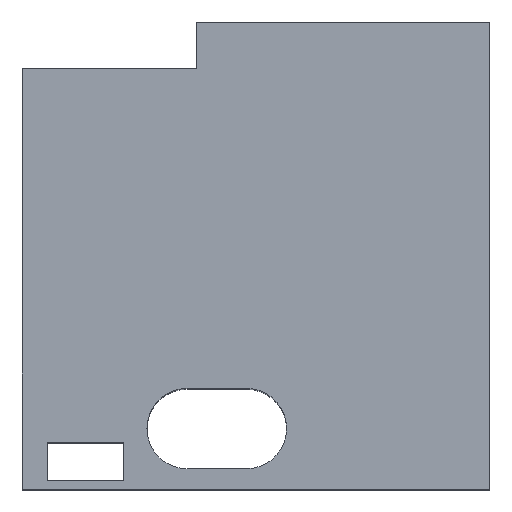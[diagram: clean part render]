
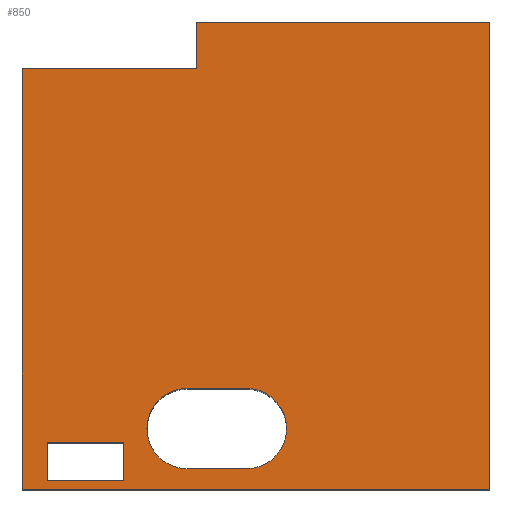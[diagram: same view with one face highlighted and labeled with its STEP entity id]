
A CAD part, top view. The second image highlights one B-rep face of the part: STEP entity #850.
In plain terms, the highlighted planar face has unit normal (0, 0, 1).
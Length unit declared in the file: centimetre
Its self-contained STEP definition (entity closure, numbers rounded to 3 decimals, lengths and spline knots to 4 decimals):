
#1 = DIRECTION ( 'NONE',  ( 1., 0., 0. ) ) ;
#4 = CARTESIAN_POINT ( 'NONE',  ( 372.6531, 1000., 1000. ) ) ;
#8 = FACE_BOUND ( 'NONE', #996, .T. ) ;
#12 = CARTESIAN_POINT ( 'NONE',  ( 372.6531, 1000., 1000. ) ) ;
#15 = CARTESIAN_POINT ( 'NONE',  ( 0., 0., 1000. ) ) ;
#16 = EDGE_CURVE ( 'NONE', #572, #487, #654, .T. ) ;
#30 = VERTEX_POINT ( 'NONE', #291 ) ;
#34 = ORIENTED_EDGE ( 'NONE', *, *, #575, .F. ) ;
#35 = FACE_OUTER_BOUND ( 'NONE', #432, .T. ) ;
#71 = EDGE_CURVE ( 'NONE', #226, #884, #724, .T. ) ;
#76 = VERTEX_POINT ( 'NONE', #396 ) ;
#78 = LINE ( 'NONE', #391, #474 ) ;
#79 = VERTEX_POINT ( 'NONE', #717 ) ;
#88 = EDGE_CURVE ( 'NONE', #675, #79, #1135, .T. ) ;
#91 = DIRECTION ( 'NONE',  ( 0., 0., -1. ) ) ;
#92 = CARTESIAN_POINT ( 'NONE',  ( 479.4095, 215.7386, 1000. ) ) ;
#99 = CARTESIAN_POINT ( 'NONE',  ( 479.4095, 43.6191, 1000. ) ) ;
#105 = EDGE_CURVE ( 'NONE', #228, #675, #402, .T. ) ;
#109 = EDGE_LOOP ( 'NONE', ( #556, #1307, #1216, #666, #984 ) ) ;
#115 = DIRECTION ( 'NONE',  ( -1., 0., 0. ) ) ;
#129 = EDGE_CURVE ( 'NONE', #1332, #228, #78, .T. ) ;
#134 = ORIENTED_EDGE ( 'NONE', *, *, #105, .F. ) ;
#135 = VECTOR ( 'NONE', #115, 100. ) ;
#160 = CARTESIAN_POINT ( 'NONE',  ( 1000., 1000., 1000. ) ) ;
#185 = AXIS2_PLACEMENT_3D ( 'NONE', #197, #940, #1 ) ;
#193 = LINE ( 'NONE', #1341, #945 ) ;
#197 = CARTESIAN_POINT ( 'NONE',  ( 352.5603, 129.6789, 1000. ) ) ;
#215 = ORIENTED_EDGE ( 'NONE', *, *, #1229, .T. ) ;
#220 = ORIENTED_EDGE ( 'NONE', *, *, #773, .T. ) ;
#226 = VERTEX_POINT ( 'NONE', #602 ) ;
#227 = LINE ( 'NONE', #1265, #135 ) ;
#228 = VERTEX_POINT ( 'NONE', #1018 ) ;
#230 = CARTESIAN_POINT ( 'NONE',  ( 352.5603, 43.6191, 1000. ) ) ;
#247 = CARTESIAN_POINT ( 'NONE',  ( 352.5603, 43.6191, 1000. ) ) ;
#254 = ORIENTED_EDGE ( 'NONE', *, *, #88, .F. ) ;
#256 = CARTESIAN_POINT ( 'NONE',  ( 479.4095, 129.6789, 1000. ) ) ;
#269 = VECTOR ( 'NONE', #289, 100. ) ;
#275 = DIRECTION ( 'NONE',  ( 0., 0., -1. ) ) ;
#279 = VECTOR ( 'NONE', #765, 100. ) ;
#289 = DIRECTION ( 'NONE',  ( 0., 1., 0. ) ) ;
#291 = CARTESIAN_POINT ( 'NONE',  ( 1000., 0., 1000. ) ) ;
#314 = DIRECTION ( 'NONE',  ( 0., -1., 0. ) ) ;
#361 = CARTESIAN_POINT ( 'NONE',  ( 53.0091, 18.2263, 1000. ) ) ;
#377 = CARTESIAN_POINT ( 'NONE',  ( 53.0091, 18.2263, 1000. ) ) ;
#391 = CARTESIAN_POINT ( 'NONE',  ( 53.0091, 18.2263, 1000. ) ) ;
#396 = CARTESIAN_POINT ( 'NONE',  ( 479.4095, 215.7386, 1000. ) ) ;
#402 = LINE ( 'NONE', #823, #1070 ) ;
#411 = AXIS2_PLACEMENT_3D ( 'NONE', #256, #275, #593 ) ;
#416 = DIRECTION ( 'NONE',  ( 1., 0., 0. ) ) ;
#424 = CARTESIAN_POINT ( 'NONE',  ( 0., 0., 1000. ) ) ;
#432 = EDGE_LOOP ( 'NONE', ( #1159, #220, #215, #1286, #434, #1196 ) ) ;
#434 = ORIENTED_EDGE ( 'NONE', *, *, #870, .T. ) ;
#454 = CIRCLE ( 'NONE', #411, 86.0597 ) ;
#456 = ORIENTED_EDGE ( 'NONE', *, *, #129, .F. ) ;
#474 = VECTOR ( 'NONE', #495, 100. ) ;
#487 = VERTEX_POINT ( 'NONE', #789 ) ;
#495 = DIRECTION ( 'NONE',  ( 1., 0., 0. ) ) ;
#536 = DIRECTION ( 'NONE',  ( 0., 1., 0. ) ) ;
#556 = ORIENTED_EDGE ( 'NONE', *, *, #16, .T. ) ;
#572 = VERTEX_POINT ( 'NONE', #230 ) ;
#575 = EDGE_CURVE ( 'NONE', #79, #1332, #1209, .T. ) ;
#578 = DIRECTION ( 'NONE',  ( 0., -1., 0. ) ) ;
#593 = DIRECTION ( 'NONE',  ( 1., 0., 0. ) ) ;
#602 = CARTESIAN_POINT ( 'NONE',  ( 372.6531, 900.4415, 1000. ) ) ;
#612 = DIRECTION ( 'NONE',  ( 1., 0., 0. ) ) ;
#617 = CARTESIAN_POINT ( 'NONE',  ( 53.0091, 100.2483, 1000. ) ) ;
#627 = VECTOR ( 'NONE', #1073, 100. ) ;
#645 = PLANE ( 'NONE',  #1325 ) ;
#654 = CIRCLE ( 'NONE', #723, 86.0597 ) ;
#655 = EDGE_CURVE ( 'NONE', #790, #572, #755, .T. ) ;
#666 = ORIENTED_EDGE ( 'NONE', *, *, #1323, .T. ) ;
#675 = VERTEX_POINT ( 'NONE', #891 ) ;
#703 = VERTEX_POINT ( 'NONE', #1348 ) ;
#709 = VERTEX_POINT ( 'NONE', #4 ) ;
#717 = CARTESIAN_POINT ( 'NONE',  ( 53.0091, 100.2483, 1000. ) ) ;
#723 = AXIS2_PLACEMENT_3D ( 'NONE', #817, #91, #416 ) ;
#724 = LINE ( 'NONE', #1258, #917 ) ;
#726 = EDGE_CURVE ( 'NONE', #703, #76, #933, .T. ) ;
#729 = VERTEX_POINT ( 'NONE', #920 ) ;
#752 = FACE_BOUND ( 'NONE', #109, .T. ) ;
#755 = LINE ( 'NONE', #247, #627 ) ;
#765 = DIRECTION ( 'NONE',  ( 1., 0., 0. ) ) ;
#773 = EDGE_CURVE ( 'NONE', #884, #729, #193, .T. ) ;
#789 = CARTESIAN_POINT ( 'NONE',  ( 266.5006, 129.6789, 1000. ) ) ;
#790 = VERTEX_POINT ( 'NONE', #99 ) ;
#792 = VECTOR ( 'NONE', #536, 100. ) ;
#816 = LINE ( 'NONE', #929, #269 ) ;
#817 = CARTESIAN_POINT ( 'NONE',  ( 352.5603, 129.6789, 1000. ) ) ;
#823 = CARTESIAN_POINT ( 'NONE',  ( 216.0688, 18.2263, 1000. ) ) ;
#850 = ADVANCED_FACE ( 'NONE', ( #8, #35, #752 ), #645, .T. ) ;
#870 = EDGE_CURVE ( 'NONE', #960, #709, #227, .T. ) ;
#884 = VERTEX_POINT ( 'NONE', #1071 ) ;
#891 = CARTESIAN_POINT ( 'NONE',  ( 216.0688, 100.2483, 1000. ) ) ;
#917 = VECTOR ( 'NONE', #924, 100. ) ;
#920 = CARTESIAN_POINT ( 'NONE',  ( 0., 0., 1000. ) ) ;
#924 = DIRECTION ( 'NONE',  ( -1., 0., 0. ) ) ;
#929 = CARTESIAN_POINT ( 'NONE',  ( 1000., 1000., 1000. ) ) ;
#933 = LINE ( 'NONE', #92, #1129 ) ;
#940 = DIRECTION ( 'NONE',  ( 0., 0., -1. ) ) ;
#945 = VECTOR ( 'NONE', #314, 100. ) ;
#960 = VERTEX_POINT ( 'NONE', #160 ) ;
#984 = ORIENTED_EDGE ( 'NONE', *, *, #655, .T. ) ;
#996 = EDGE_LOOP ( 'NONE', ( #34, #254, #134, #456 ) ) ;
#1018 = CARTESIAN_POINT ( 'NONE',  ( 216.0688, 18.2263, 1000. ) ) ;
#1036 = EDGE_CURVE ( 'NONE', #487, #703, #1217, .T. ) ;
#1070 = VECTOR ( 'NONE', #1246, 100. ) ;
#1071 = CARTESIAN_POINT ( 'NONE',  ( 0., 900.4415, 1000. ) ) ;
#1073 = DIRECTION ( 'NONE',  ( -1., 0., 0. ) ) ;
#1082 = LINE ( 'NONE', #12, #792 ) ;
#1085 = EDGE_CURVE ( 'NONE', #30, #960, #816, .T. ) ;
#1098 = VECTOR ( 'NONE', #1346, 100. ) ;
#1129 = VECTOR ( 'NONE', #612, 100. ) ;
#1135 = LINE ( 'NONE', #617, #1098 ) ;
#1159 = ORIENTED_EDGE ( 'NONE', *, *, #71, .T. ) ;
#1161 = DIRECTION ( 'NONE',  ( 0., 0., 1. ) ) ;
#1178 = DIRECTION ( 'NONE',  ( 1., 0., 0. ) ) ;
#1196 = ORIENTED_EDGE ( 'NONE', *, *, #1238, .F. ) ;
#1209 = LINE ( 'NONE', #361, #1277 ) ;
#1216 = ORIENTED_EDGE ( 'NONE', *, *, #726, .T. ) ;
#1217 = CIRCLE ( 'NONE', #185, 86.0597 ) ;
#1229 = EDGE_CURVE ( 'NONE', #729, #30, #1267, .T. ) ;
#1238 = EDGE_CURVE ( 'NONE', #226, #709, #1082, .T. ) ;
#1246 = DIRECTION ( 'NONE',  ( 0., 1., 0. ) ) ;
#1258 = CARTESIAN_POINT ( 'NONE',  ( 372.6531, 900.4415, 1000. ) ) ;
#1265 = CARTESIAN_POINT ( 'NONE',  ( 0., 1000., 1000. ) ) ;
#1267 = LINE ( 'NONE', #15, #279 ) ;
#1277 = VECTOR ( 'NONE', #578, 100. ) ;
#1286 = ORIENTED_EDGE ( 'NONE', *, *, #1085, .T. ) ;
#1307 = ORIENTED_EDGE ( 'NONE', *, *, #1036, .T. ) ;
#1323 = EDGE_CURVE ( 'NONE', #76, #790, #454, .T. ) ;
#1325 = AXIS2_PLACEMENT_3D ( 'NONE', #424, #1161, #1178 ) ;
#1332 = VERTEX_POINT ( 'NONE', #377 ) ;
#1341 = CARTESIAN_POINT ( 'NONE',  ( 0., 1000., 1000. ) ) ;
#1346 = DIRECTION ( 'NONE',  ( -1., 0., 0. ) ) ;
#1348 = CARTESIAN_POINT ( 'NONE',  ( 352.5603, 215.7386, 1000. ) ) ;
